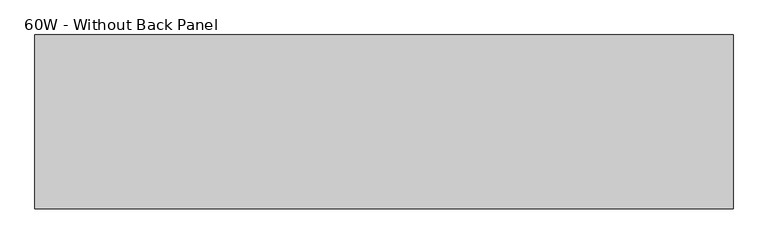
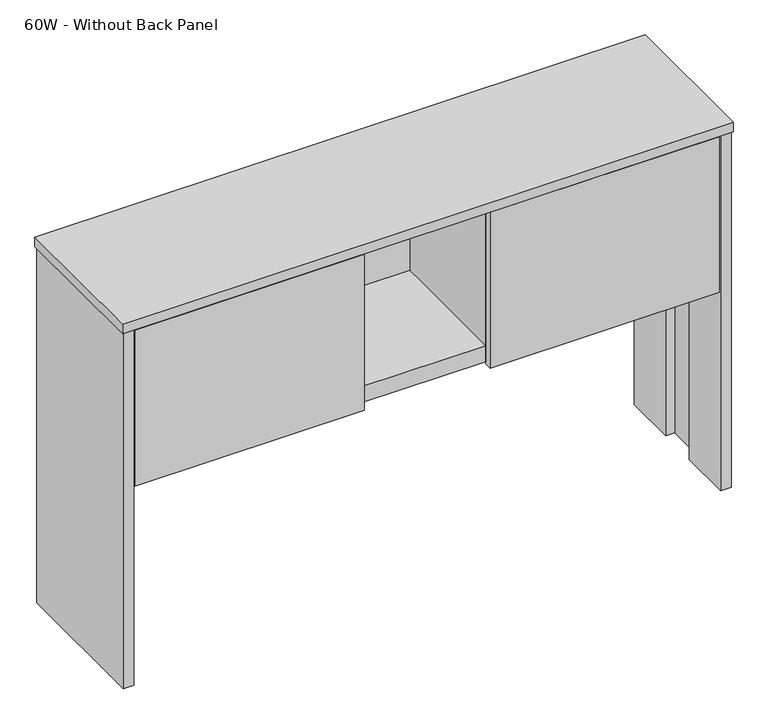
"""IFC4 building model written with IfcOpenShell, lengths in millimetres: furniture geometry, Steelcase - Kick Freestanding - Overhead Storage Cabinet With Hinge Door : 60W - Without Back Panel."""

from ifc_helpers import new_model, si_unit, frame, origin, place, context, project, spatial, polyline, outline, extrude, source, transform, mapped, element, save


def furniture_60w_without_back_panel_67b27a3b(model_context):
    return source(origin(), model_context, "Body", "SweptSolid", [
        extrude(outline(polyline([(606.2138992, -377.8250114), (593.5138992, -377.8250114), (593.5138992, -53.9789719), (606.2138992, -53.9789719), (606.2138992, -377.8250114)])), frame((0.0, 0.0, 1018.943073), z_axis=(0.0, 0.0, 1.0), x_axis=(1.0, 0.0, 0.0)), (0.0, 0.0, 1.0), 403.225),
        extrude(outline(polyline([(917.3638992, -377.8250114), (917.3638992, -53.9789719), (930.0638992, -53.9789719), (930.0638992, -377.8250114), (917.3638992, -377.8250114)])), frame((0.0, 0.0, 1018.943073), z_axis=(0.0, 0.0, 1.0), x_axis=(1.0, 0.0, 0.0)), (0.0, 0.0, 1.0), 403.225),
        extrude(outline(polyline([(1485.5618992, -28.5781763), (1511.0872195, -28.5781763), (1511.0872195, -396.8781725), (1485.5618992, -396.8781725), (1485.5618992, -263.5281725), (1507.9122191, -263.5281725), (1507.9122191, -161.9281786), (1485.5618992, -161.9281786), (1485.5618992, -28.5781763)])), frame((0.0, 0.0, 495.068073), z_axis=(0.0, 0.0, 1.0), x_axis=(1.0, 0.0, 0.0)), (0.0, 0.0, 1.0), 927.1),
        extrude(outline(polyline([(917.3638992, -377.8250114), (1482.5126896, -377.8250114), (1482.5126896, -396.8750114), (917.3638992, -396.8750114), (917.3638992, -377.8250114)])), frame((0.0, 0.0, 1012.5930246), z_axis=(0.0, 0.0, 1.0), x_axis=(1.0, 0.0, 0.0)), (0.0, 0.0, 1.0), 406.4000484),
        extrude(outline(polyline([(917.3639098, -377.8250114), (606.2138992, -377.8250114), (606.2138992, -53.9789719), (917.3639098, -53.9789719), (917.3639098, -377.8250114)])), frame((0.0, 0.0, 1018.943073), z_axis=(0.0, 0.0, 1.0), x_axis=(1.0, 0.0, 0.0)), (0.0, 0.0, 1.0), 41.2749516),
        extrude(outline(polyline([(606.2138992, -377.8250114), (606.2138992, -396.8750114), (41.0639007, -396.8750114), (41.0639007, -377.8250114), (606.2138992, -377.8250114)])), frame((0.0, 0.0, 1012.5930246), z_axis=(0.0, 0.0, 1.0), x_axis=(1.0, 0.0, 0.0)), (0.0, 0.0, 1.0), 406.4000484),
        extrude(outline(polyline([(1485.5618992, -53.9789719), (38.0158992, -53.9789719), (38.0158992, -28.5789734), (1485.5618992, -28.5789734), (1485.5618992, -53.9789719)])), frame((0.0, 0.0, 1012.720073), z_axis=(0.0, 0.0, 1.0), x_axis=(1.0, 0.0, 0.0)), (0.0, 0.0, 1.0), 409.448),
        extrude(outline(polyline([(38.0158992, -28.5781763), (38.0158992, -161.9281786), (15.6638988, -161.9281786), (15.6638988, -263.5281725), (38.0158992, -263.5281725), (38.0158992, -396.8781725), (12.4888985, -396.8781725), (12.4888985, -28.5781763), (38.0158992, -28.5781763)])), frame((0.0, 0.0, 495.068073), z_axis=(0.0, 0.0, 1.0), x_axis=(1.0, 0.0, 0.0)), (0.0, 0.0, 1.0), 927.1),
        extrude(outline(polyline([(1514.2638992, -25.4), (1514.2638992, -400.05), (9.3138992, -400.05), (9.3138992, -25.4), (1514.2638992, -25.4)])), frame((0.0, 0.0, 1422.168073), z_axis=(0.0, 0.0, 1.0), x_axis=(1.0, 0.0, 0.0)), (0.0, 0.0, 1.0), 25.4),
    ])


if __name__ == "__main__":
    model = new_model("IFC4")
    model_context = context("Model", 3, world=origin())
    ifc_project = project(units=[si_unit("LENGTHUNIT", "METRE", prefix="MILLI")], contexts=[model_context])
    site = spatial("IfcSite", under=ifc_project)
    building = spatial("IfcBuilding", under=site)
    placement = place(None, origin())
    furniture_60w_without_back_panel_shape = furniture_60w_without_back_panel_67b27a3b(model_context)
    element("IfcFurniture", 1, ObjectType="Steelcase - Kick Freestanding - Overhead Storage Cabinet With Hinge Door : 60W - Without Back Panel", at=placement, inside=building, context=model_context, shape_type="MappedRepresentation", body=[
        mapped(furniture_60w_without_back_panel_shape, transform((0.0, 0.0, 0.0), x_axis=(1.0, 0.0, 0.0), y_axis=(0.0, 1.0, 0.0), z_axis=(0.0, 0.0, 1.0))),
    ])
    save(model, "model.ifc")
